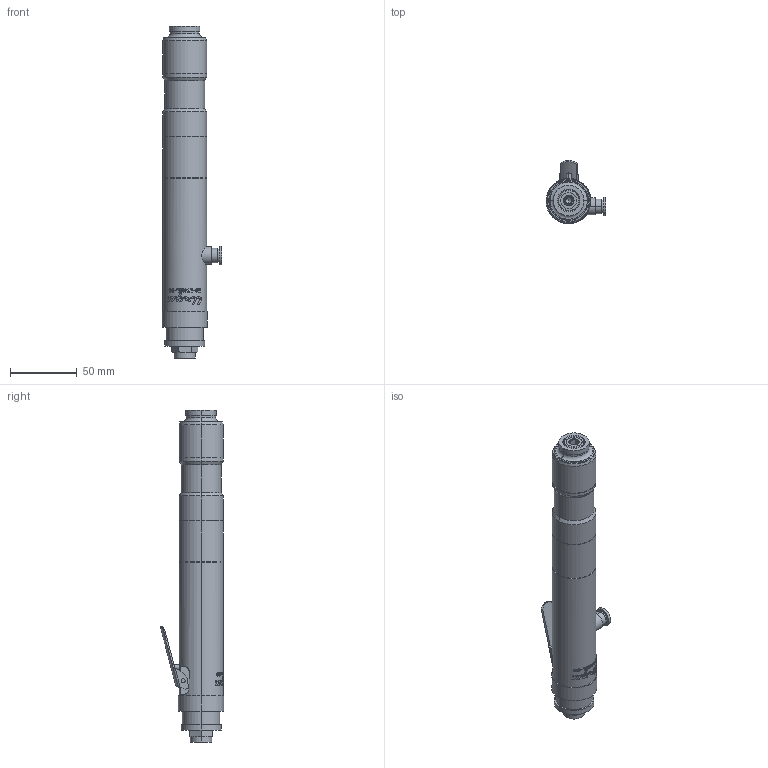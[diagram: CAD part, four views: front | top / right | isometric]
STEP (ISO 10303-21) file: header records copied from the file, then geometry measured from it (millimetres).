
FILE_DESCRIPTION (( 'STEP AP203' ), '1' );
FILE_NAME ('US-LT40BL-08.STEP', '2006-03-22T04:17:25', ( '' ), ( '' ), 'SwSTEP 2.0', 'SolidWorks 2003240', '' );
FILE_SCHEMA (( 'CONFIG_CONTROL_DESIGN' ));
Length unit declared in the file: millimetre
Products named in the file (9): 4633697_US-LT40BL-08_蹬怮椔; 9810020_US-LT40BL-08_蹬怮椔; US-LT40BL-08; 4723197_US-LT40BL-08_蹬怮椔; 4725677_US-LT40BL-08_蹬怮椔; 4610256_US-LT40BL-08_蹬怮椔; 4611146_US-LT40BL-08_蹬怮椔; 4661075_US-LT40BL-08_蹬怮椔; 8930571_US-LT40BL-08_蹬怮椔
Assembly tree (8 placements, depth 2):
  US-LT40BL-08
    4633697_US-LT40BL-08_蹬怮椔
    4611146_US-LT40BL-08_蹬怮椔
    4661075_US-LT40BL-08_蹬怮椔
    4610256_US-LT40BL-08_蹬怮椔
    4725677_US-LT40BL-08_蹬怮椔
    8930571_US-LT40BL-08_蹬怮椔
    4723197_US-LT40BL-08_蹬怮椔
    9810020_US-LT40BL-08_蹬怮椔
Bounding box: 45 x 47.62 x 249.5 mm (x, y, z)
Volume: 196235.8 mm3; surface area: 37761.5 mm2
Topology: 8 solids, 8 shells, 492 faces, 1224 edges, 796 vertices
Faces by surface type: plane 173, cylinder 165, bspline 117, cone 31, sphere 4, torus 2
Entity records: 22850 total; most frequent: CARTESIAN_POINT 11130, ORIENTED_EDGE 2434, DIRECTION 1878, EDGE_CURVE 1217, VERTEX_POINT 793, AXIS2_PLACEMENT_3D 688, EDGE_LOOP 552, VECTOR 502
